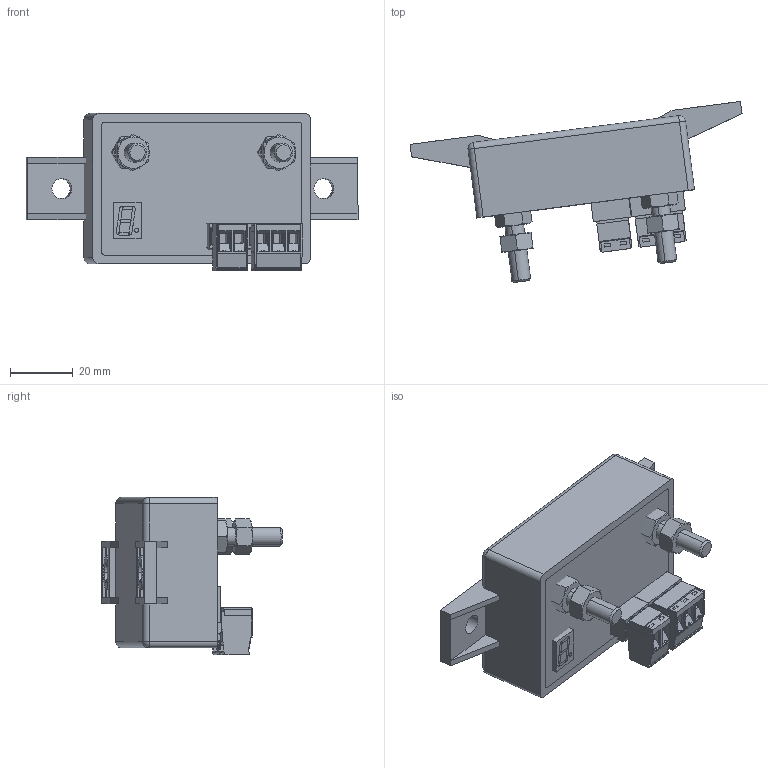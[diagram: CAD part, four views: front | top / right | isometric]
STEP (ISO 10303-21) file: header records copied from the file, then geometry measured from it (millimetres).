
FILE_DESCRIPTION (( 'STEP AP214' ), '1' );
FILE_NAME ('DimensionDrawing_BatteryProtect_12V-24V-65A-rev01-3D.STEP', '2026-07-29T14:47:50', ( '' ), ( '' ), 'SwSTEP 2.0', 'SolidWorks 2025', '' );
FILE_SCHEMA (( 'AUTOMOTIVE_DESIGN' ));
Length unit declared in the file: millimetre
Products named in the file (30): 1757242_02; 1757255; 1757255_01; 1757242; 1757022_09; 1757019_02; 1757022_02; 1757255_02; 1757255_03; 1757022_04; 1757022_03; 1757019; 1757019_03; 1757022_06; 1757022_07; 1757255_04; 1757242_01; 1757022; 1757022_01; DimensionDrawing_BatteryProtect_12V-24V-65A-rev01-3D; 1757019_01; User Library-LTS-4301JR; hex bolt_am_B18.2.3.5M - Hex bolt M6 x 1.0 x 30 --18N; 1757022_05; 1757022_08; 1757242_03; Potting12-24-65-rev00 ; 1757022_10; hex nut style 1_am_B18.2.4.1M - Hex nut, Style 1,  M6 x 1 --D-N; PlasticPart12-24-65-rev00 
Assembly tree (33 placements, depth 3):
  DimensionDrawing_BatteryProtect_12V-24V-65A-rev01-3D
    hex bolt_am_B18.2.3.5M - Hex bolt M6 x 1.0 x 30 --18N  x2
    hex nut style 1_am_B18.2.4.1M - Hex nut, Style 1,  M6 x 1 --D-N  x4
    PlasticPart12-24-65-rev00 
    Potting12-24-65-rev00 
    1757019
      1757019_01
      1757019_02
      1757019_03
    1757242
      1757242_01
      1757242_02
      1757242_03
    1757022
      1757022_01
      1757022_02
      1757022_03
      1757022_04
      1757022_05
      1757022_06
      1757022_07
      1757022_08
      1757022_09
      1757022_10
    1757255
      1757255_01
      1757255_02
      1757255_03
      1757255_04
    User Library-LTS-4301JR
Bounding box: 105.93 x 57.78 x 50.14 mm (x, y, z)
Volume: 91280.8 mm3; surface area: 41954.6 mm2
Topology: 29 solids, 29 shells, 3152 faces, 8615 edges, 5644 vertices
Faces by surface type: plane 2455, cylinder 530, cone 118, sphere 25, bspline 20, torus 4
Entity records: 120143 total; most frequent: CARTESIAN_POINT 31788, ORIENTED_EDGE 16732, DIRECTION 15247, EDGE_CURVE 8366, LINE 7057, VECTOR 7057, VERTEX_POINT 5504, AXIS2_PLACEMENT_3D 4095
